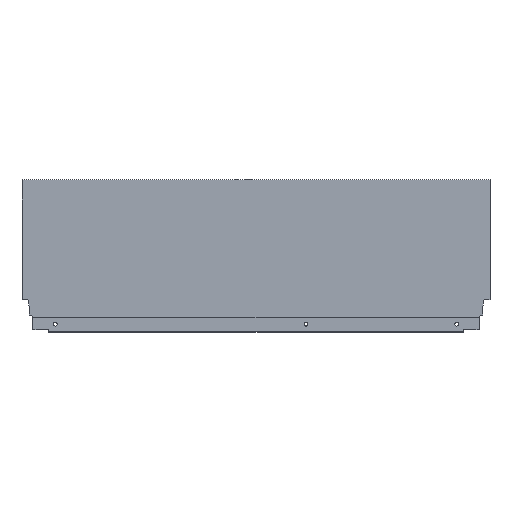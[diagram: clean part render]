
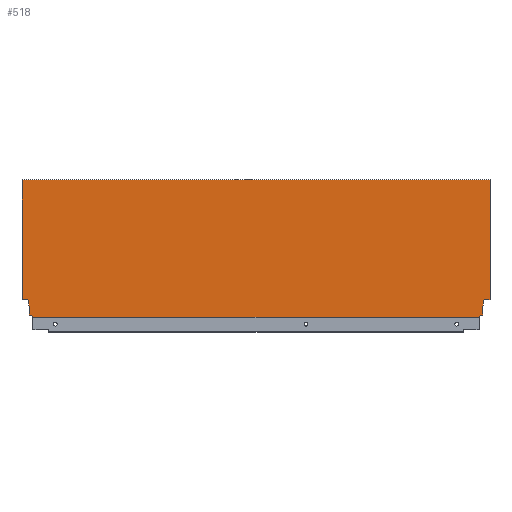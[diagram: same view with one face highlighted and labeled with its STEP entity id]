
A CAD part, top view. The second image highlights one B-rep face of the part: STEP entity #518.
In plain terms, the highlighted planar face has unit normal (0, 0, 1).
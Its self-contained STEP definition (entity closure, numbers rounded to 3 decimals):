
#65 = EDGE_CURVE ( 'NONE', #1053, #1081, #1539, .T. ) ;
#67 = EDGE_CURVE ( 'NONE', #1065, #1002, #1237, .T. ) ;
#68 = EDGE_CURVE ( 'NONE', #1056, #1053, #752, .T. ) ;
#69 = EDGE_CURVE ( 'NONE', #1002, #1060, #749, .T. ) ;
#70 = EDGE_CURVE ( 'NONE', #1081, #1087, #747, .T. ) ;
#71 = EDGE_CURVE ( 'NONE', #1013, #1037, #745, .T. ) ;
#72 = EDGE_CURVE ( 'NONE', #1087, #1024, #743, .T. ) ;
#73 = EDGE_CURVE ( 'NONE', #1048, #1029, #741, .T. ) ;
#74 = EDGE_CURVE ( 'NONE', #1024, #1065, #739, .T. ) ;
#76 = EDGE_CURVE ( 'NONE', #1056, #1029, #735, .T. ) ;
#78 = EDGE_CURVE ( 'NONE', #1055, #1035, #731, .T. ) ;
#79 = EDGE_CURVE ( 'NONE', #1035, #1013, #729, .T. ) ;
#81 = EDGE_CURVE ( 'NONE', #1037, #1048, #1538, .T. ) ;
#85 = EDGE_CURVE ( 'NONE', #1055, #1060, #732, .T. ) ;
#152 = AXIS2_PLACEMENT_3D ( 'NONE', #486, #478, #477 ) ;
#207 = CARTESIAN_POINT ( 'NONE',  ( -13.004, 1.146, 7.5 ) ) ;
#324 = CARTESIAN_POINT ( 'NONE',  ( -7.06, 21.2, 7.5 ) ) ;
#330 = CARTESIAN_POINT ( 'NONE',  ( 0., 21.2, 7.5 ) ) ;
#346 = CARTESIAN_POINT ( 'NONE',  ( -8.9, 2.64, 7.5 ) ) ;
#352 = CARTESIAN_POINT ( 'NONE',  ( -13.004, 0., 7.5 ) ) ;
#356 = CARTESIAN_POINT ( 'NONE',  ( -561., 164.7, 7.5 ) ) ;
#357 = CARTESIAN_POINT ( 'NONE',  ( -547.996, 0., 7.5 ) ) ;
#359 = CARTESIAN_POINT ( 'NONE',  ( 0., 164.7, 7.5 ) ) ;
#364 = CARTESIAN_POINT ( 'NONE',  ( -553.94, 21.2, 7.5 ) ) ;
#375 = CARTESIAN_POINT ( 'NONE',  ( -552.1, 10.765, 7.5 ) ) ;
#377 = CARTESIAN_POINT ( 'NONE',  ( -547.996, 1.146, 7.5 ) ) ;
#383 = CARTESIAN_POINT ( 'NONE',  ( -561., 21.2, 7.5 ) ) ;
#387 = CARTESIAN_POINT ( 'NONE',  ( -8.9, 10.765, 7.5 ) ) ;
#395 = CARTESIAN_POINT ( 'NONE',  ( -552.1, 2.64, 7.5 ) ) ;
#477 = DIRECTION ( 'NONE',  ( 1., 0., 0. ) ) ;
#478 = DIRECTION ( 'NONE',  ( 0., 0., 1. ) ) ;
#486 = CARTESIAN_POINT ( 'NONE',  ( -561., 0., 7.5 ) ) ;
#491 = PLANE ( 'NONE',  #152 ) ;
#518 = ADVANCED_FACE ( 'NONE', ( #620 ), #491, .T. ) ;
#620 = FACE_OUTER_BOUND ( 'NONE', #1277, .T. ) ;
#726 = VECTOR ( 'NONE', #935, 1000. ) ;
#728 = VECTOR ( 'NONE', #925, 1000. ) ;
#729 = LINE ( 'NONE', #924, #728 ) ;
#730 = VECTOR ( 'NONE', #923, 1000. ) ;
#731 = LINE ( 'NONE', #928, #730 ) ;
#732 = LINE ( 'NONE', #934, #726 ) ;
#734 = VECTOR ( 'NONE', #929, 1000. ) ;
#735 = LINE ( 'NONE', #931, #734 ) ;
#738 = VECTOR ( 'NONE', #896, 1000. ) ;
#739 = LINE ( 'NONE', #895, #738 ) ;
#740 = VECTOR ( 'NONE', #894, 1000. ) ;
#741 = LINE ( 'NONE', #893, #740 ) ;
#742 = VECTOR ( 'NONE', #899, 1000. ) ;
#743 = LINE ( 'NONE', #898, #742 ) ;
#744 = VECTOR ( 'NONE', #897, 1000. ) ;
#745 = LINE ( 'NONE', #901, #744 ) ;
#746 = VECTOR ( 'NONE', #900, 1000. ) ;
#747 = LINE ( 'NONE', #891, #746 ) ;
#748 = VECTOR ( 'NONE', #885, 1000. ) ;
#749 = LINE ( 'NONE', #886, #748 ) ;
#750 = VECTOR ( 'NONE', #1097, 1000. ) ;
#752 = LINE ( 'NONE', #997, #750 ) ;
#753 = VECTOR ( 'NONE', #883, 1000. ) ;
#765 = DIRECTION ( 'NONE',  ( 0., -1., 0. ) ) ;
#766 = CARTESIAN_POINT ( 'NONE',  ( 0., 0., 7.5 ) ) ;
#883 = DIRECTION ( 'NONE',  ( -0.94, -0.342, 0. ) ) ;
#885 = DIRECTION ( 'NONE',  ( 0., -1., 0. ) ) ;
#886 = CARTESIAN_POINT ( 'NONE',  ( -13.004, 1.146, 7.5 ) ) ;
#891 = CARTESIAN_POINT ( 'NONE',  ( 0., 21.2, 7.5 ) ) ;
#893 = CARTESIAN_POINT ( 'NONE',  ( -566., 21.2, 7.5 ) ) ;
#894 = DIRECTION ( 'NONE',  ( -1., 0., 0. ) ) ;
#895 = CARTESIAN_POINT ( 'NONE',  ( -8.9, 10.765, 7.5 ) ) ;
#896 = DIRECTION ( 'NONE',  ( 0., -1., 0. ) ) ;
#897 = DIRECTION ( 'NONE',  ( 0., 1., 0. ) ) ;
#898 = CARTESIAN_POINT ( 'NONE',  ( -7.06, 21.2, 7.5 ) ) ;
#899 = DIRECTION ( 'NONE',  ( -0.174, -0.985, 0. ) ) ;
#900 = DIRECTION ( 'NONE',  ( -1., 0., 0. ) ) ;
#901 = CARTESIAN_POINT ( 'NONE',  ( -552.1, 10.765, 7.5 ) ) ;
#917 = DIRECTION ( 'NONE',  ( -0.174, 0.985, 0. ) ) ;
#922 = CARTESIAN_POINT ( 'NONE',  ( -553.94, 21.2, 7.5 ) ) ;
#923 = DIRECTION ( 'NONE',  ( 0., 1., 0. ) ) ;
#924 = CARTESIAN_POINT ( 'NONE',  ( -552.1, 2.64, 7.5 ) ) ;
#925 = DIRECTION ( 'NONE',  ( -0.94, 0.342, 0. ) ) ;
#928 = CARTESIAN_POINT ( 'NONE',  ( -547.996, 1.146, 7.5 ) ) ;
#929 = DIRECTION ( 'NONE',  ( 0., -1., 0. ) ) ;
#931 = CARTESIAN_POINT ( 'NONE',  ( -561., 0., 7.5 ) ) ;
#934 = CARTESIAN_POINT ( 'NONE',  ( -561., 0., 7.5 ) ) ;
#935 = DIRECTION ( 'NONE',  ( 1., 0., 0. ) ) ;
#997 = CARTESIAN_POINT ( 'NONE',  ( -561., 164.7, 7.5 ) ) ;
#1000 = CARTESIAN_POINT ( 'NONE',  ( -8.9, 2.64, 7.5 ) ) ;
#1002 = VERTEX_POINT ( 'NONE', #207 ) ;
#1013 = VERTEX_POINT ( 'NONE', #395 ) ;
#1024 = VERTEX_POINT ( 'NONE', #387 ) ;
#1029 = VERTEX_POINT ( 'NONE', #383 ) ;
#1035 = VERTEX_POINT ( 'NONE', #377 ) ;
#1037 = VERTEX_POINT ( 'NONE', #375 ) ;
#1048 = VERTEX_POINT ( 'NONE', #364 ) ;
#1053 = VERTEX_POINT ( 'NONE', #359 ) ;
#1055 = VERTEX_POINT ( 'NONE', #357 ) ;
#1056 = VERTEX_POINT ( 'NONE', #356 ) ;
#1060 = VERTEX_POINT ( 'NONE', #352 ) ;
#1065 = VERTEX_POINT ( 'NONE', #346 ) ;
#1081 = VERTEX_POINT ( 'NONE', #330 ) ;
#1087 = VERTEX_POINT ( 'NONE', #324 ) ;
#1097 = DIRECTION ( 'NONE',  ( 1., 0., 0. ) ) ;
#1112 = VECTOR ( 'NONE', #917, 1000. ) ;
#1237 = LINE ( 'NONE', #1000, #753 ) ;
#1270 = ORIENTED_EDGE ( 'NONE', *, *, #76, .T. ) ;
#1277 = EDGE_LOOP ( 'NONE', ( #1270, #1286, #1287, #1288, #1289, #1290, #1291, #1292, #1293, #1294, #1295, #1296, #1297, #1298 ) ) ;
#1286 = ORIENTED_EDGE ( 'NONE', *, *, #73, .F. ) ;
#1287 = ORIENTED_EDGE ( 'NONE', *, *, #81, .F. ) ;
#1288 = ORIENTED_EDGE ( 'NONE', *, *, #71, .F. ) ;
#1289 = ORIENTED_EDGE ( 'NONE', *, *, #79, .F. ) ;
#1290 = ORIENTED_EDGE ( 'NONE', *, *, #78, .F. ) ;
#1291 = ORIENTED_EDGE ( 'NONE', *, *, #85, .T. ) ;
#1292 = ORIENTED_EDGE ( 'NONE', *, *, #69, .F. ) ;
#1293 = ORIENTED_EDGE ( 'NONE', *, *, #67, .F. ) ;
#1294 = ORIENTED_EDGE ( 'NONE', *, *, #74, .F. ) ;
#1295 = ORIENTED_EDGE ( 'NONE', *, *, #72, .F. ) ;
#1296 = ORIENTED_EDGE ( 'NONE', *, *, #70, .F. ) ;
#1297 = ORIENTED_EDGE ( 'NONE', *, *, #65, .F. ) ;
#1298 = ORIENTED_EDGE ( 'NONE', *, *, #68, .F. ) ;
#1538 = LINE ( 'NONE', #922, #1112 ) ;
#1539 = LINE ( 'NONE', #766, #1540 ) ;
#1540 = VECTOR ( 'NONE', #765, 1000. ) ;
